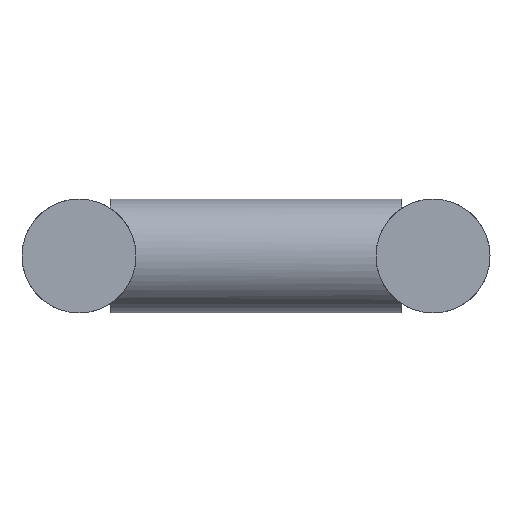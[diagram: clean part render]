
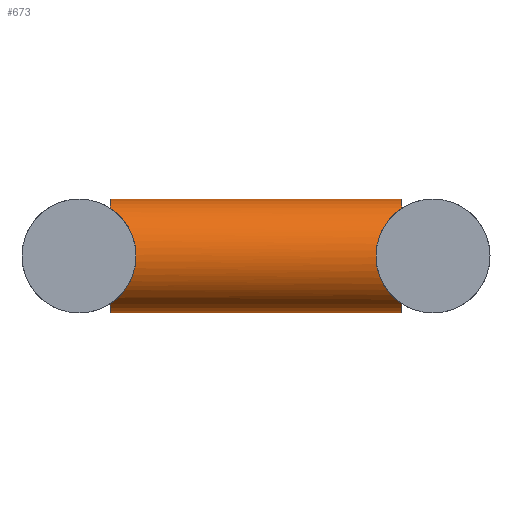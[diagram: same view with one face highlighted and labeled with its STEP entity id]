
A CAD part, left-side view. The second image highlights one B-rep face of the part: STEP entity #673.
In plain terms, the highlighted cylindrical face has radius 24.15 mm (diameter 48.3 mm), a full revolution.
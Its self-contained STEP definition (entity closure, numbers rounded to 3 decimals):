
#36=FACE_BOUND('',#161,.T.);
#80=ELLIPSE('',#738,34.153,24.15);
#81=ELLIPSE('',#739,34.153,24.15);
#82=ELLIPSE('',#740,34.153,24.15);
#83=ELLIPSE('',#741,34.153,24.15);
#90=CYLINDRICAL_SURFACE('',#737,24.15);
#116=FACE_OUTER_BOUND('',#160,.T.);
#160=EDGE_LOOP('',(#472,#473,#474,#475));
#161=EDGE_LOOP('',(#476,#477,#478,#479));
#232=CIRCLE('',#730,24.15);
#233=CIRCLE('',#732,24.15);
#234=CIRCLE('',#734,24.15);
#235=CIRCLE('',#736,24.15);
#304=VERTEX_POINT('',#1043);
#305=VERTEX_POINT('',#1044);
#306=VERTEX_POINT('',#1048);
#307=VERTEX_POINT('',#1049);
#308=VERTEX_POINT('',#1053);
#309=VERTEX_POINT('',#1054);
#310=VERTEX_POINT('',#1058);
#311=VERTEX_POINT('',#1059);
#377=EDGE_CURVE('',#304,#305,#232,.T.);
#379=EDGE_CURVE('',#306,#307,#233,.T.);
#381=EDGE_CURVE('',#308,#309,#234,.T.);
#383=EDGE_CURVE('',#310,#311,#235,.T.);
#384=EDGE_CURVE('',#307,#304,#80,.T.);
#385=EDGE_CURVE('',#305,#306,#81,.T.);
#386=EDGE_CURVE('',#311,#308,#82,.T.);
#387=EDGE_CURVE('',#309,#310,#83,.T.);
#472=ORIENTED_EDGE('',*,*,#384,.F.);
#473=ORIENTED_EDGE('',*,*,#379,.F.);
#474=ORIENTED_EDGE('',*,*,#385,.F.);
#475=ORIENTED_EDGE('',*,*,#377,.F.);
#476=ORIENTED_EDGE('',*,*,#386,.F.);
#477=ORIENTED_EDGE('',*,*,#383,.F.);
#478=ORIENTED_EDGE('',*,*,#387,.F.);
#479=ORIENTED_EDGE('',*,*,#381,.F.);
#673=ADVANCED_FACE('',(#116,#36),#90,.T.);
#730=AXIS2_PLACEMENT_3D('',#1046,#858,#859);
#732=AXIS2_PLACEMENT_3D('',#1051,#863,#864);
#734=AXIS2_PLACEMENT_3D('',#1056,#868,#869);
#736=AXIS2_PLACEMENT_3D('',#1061,#873,#874);
#737=AXIS2_PLACEMENT_3D('',#1062,#875,#876);
#738=AXIS2_PLACEMENT_3D('',#1063,#877,#878);
#739=AXIS2_PLACEMENT_3D('',#1064,#879,#880);
#740=AXIS2_PLACEMENT_3D('',#1065,#881,#882);
#741=AXIS2_PLACEMENT_3D('',#1066,#883,#884);
#858=DIRECTION('center_axis',(0.,-1.,0.));
#859=DIRECTION('ref_axis',(1.,0.,0.));
#863=DIRECTION('center_axis',(0.,-1.,0.));
#864=DIRECTION('ref_axis',(1.,0.,0.));
#868=DIRECTION('center_axis',(0.,1.,0.));
#869=DIRECTION('ref_axis',(1.,0.,0.));
#873=DIRECTION('center_axis',(0.,1.,0.));
#874=DIRECTION('ref_axis',(1.,0.,0.));
#875=DIRECTION('center_axis',(0.,-1.,0.));
#876=DIRECTION('ref_axis',(1.,0.,0.));
#877=DIRECTION('center_axis',(0.707,-0.707,0.));
#878=DIRECTION('ref_axis',(0.707,0.707,0.));
#879=DIRECTION('center_axis',(-0.707,-0.707,0.));
#880=DIRECTION('ref_axis',(0.707,-0.707,0.));
#881=DIRECTION('center_axis',(-0.707,0.707,0.));
#882=DIRECTION('ref_axis',(0.707,0.707,0.));
#883=DIRECTION('center_axis',(0.707,0.707,0.));
#884=DIRECTION('ref_axis',(0.707,-0.707,0.));
#1043=CARTESIAN_POINT('',(89.3,-61.85,20.256));
#1044=CARTESIAN_POINT('',(63.,-61.85,20.256));
#1046=CARTESIAN_POINT('Origin',(76.15,-61.85,0.));
#1048=CARTESIAN_POINT('',(63.,-61.85,-20.256));
#1049=CARTESIAN_POINT('',(89.3,-61.85,-20.256));
#1051=CARTESIAN_POINT('Origin',(76.15,-61.85,0.));
#1053=CARTESIAN_POINT('',(63.,61.85,20.256));
#1054=CARTESIAN_POINT('',(89.3,61.85,20.256));
#1056=CARTESIAN_POINT('Origin',(76.15,61.85,0.));
#1058=CARTESIAN_POINT('',(89.3,61.85,-20.256));
#1059=CARTESIAN_POINT('',(63.,61.85,-20.256));
#1061=CARTESIAN_POINT('Origin',(76.15,61.85,0.));
#1062=CARTESIAN_POINT('Origin',(76.15,61.85,0.));
#1063=CARTESIAN_POINT('Origin',(76.15,-75.,0.));
#1064=CARTESIAN_POINT('Origin',(76.15,-75.,0.));
#1065=CARTESIAN_POINT('Origin',(76.15,75.,0.));
#1066=CARTESIAN_POINT('Origin',(76.15,75.,0.));
